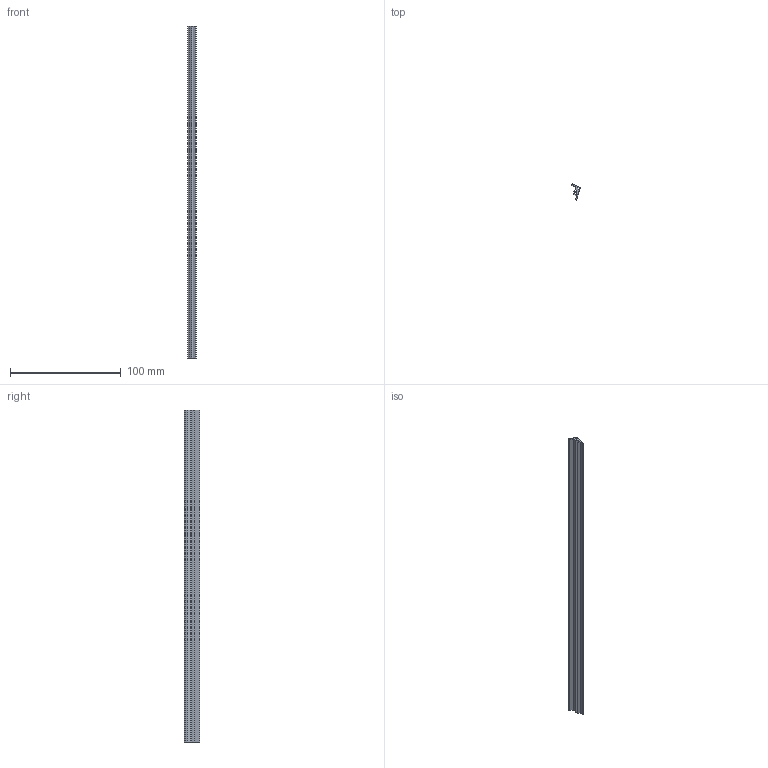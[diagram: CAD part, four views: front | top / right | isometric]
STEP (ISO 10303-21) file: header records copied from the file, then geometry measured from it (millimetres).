
FILE_DESCRIPTION (( 'STEP AP203' ), '1' );
FILE_NAME ('190-CE-10K4.STEP', '2015-07-09T09:19:54', ( '' ), ( '' ), 'SwSTEP 2.0', 'SolidWorks 2013', '' );
FILE_SCHEMA (( 'CONFIG_CONTROL_DESIGN' ));
Length unit declared in the file: millimetre
Products named in the file (1): 190-CE-10K4
Bounding box: 7.43 x 14.14 x 300 mm (x, y, z)
Volume: 9251.9 mm3; surface area: 14617.2 mm2
Topology: 1 solids, 1 shells, 30 faces, 84 edges, 56 vertices
Faces by surface type: plane 17, cylinder 13
Entity records: 1051 total; most frequent: DIRECTION 172, CARTESIAN_POINT 171, ORIENTED_EDGE 168, EDGE_CURVE 84, VECTOR 58, LINE 58, AXIS2_PLACEMENT_3D 57, VERTEX_POINT 56
